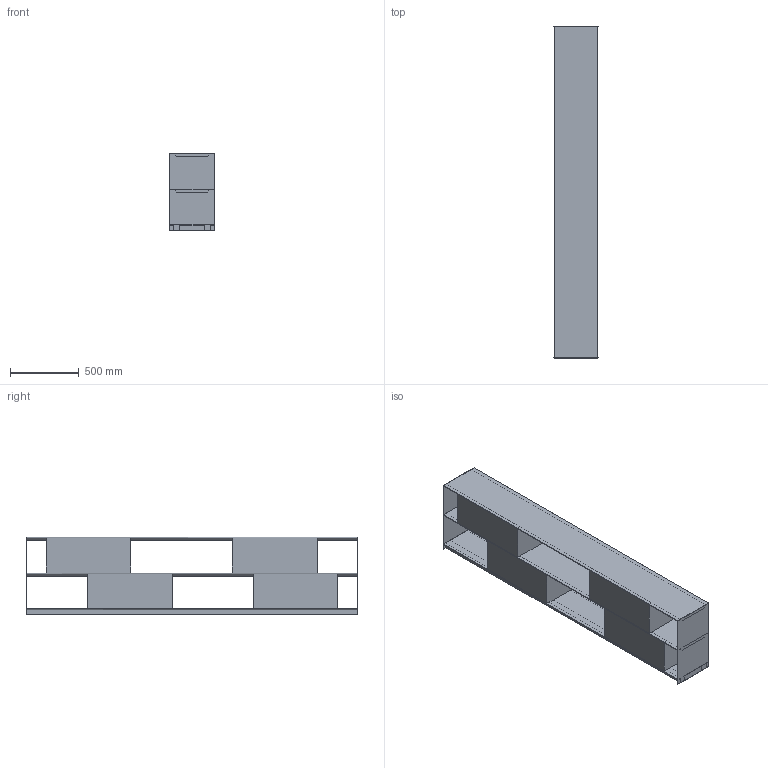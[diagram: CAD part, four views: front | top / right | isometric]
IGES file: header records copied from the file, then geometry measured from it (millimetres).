
Start section: Comment
Global section: file name: Stack - 240 x 056.igs; native system:  By UGS Corp.; preprocessor: XPlus GENERIC/IGES 3.0; author: Author; organization: Title; date: 20141016.143743; units: inch
Bounding box: 319 x 2405 x 563 mm (x, y, z)
Surface area: 8759977.3 mm2 (no closed solid volume)
Topology: 0 solids, 0 shells, 118 faces, 576 edges, 576 vertices
Faces by surface type: bspline 118
